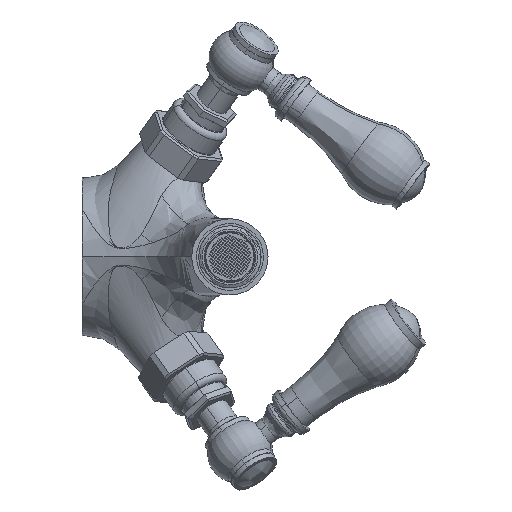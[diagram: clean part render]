
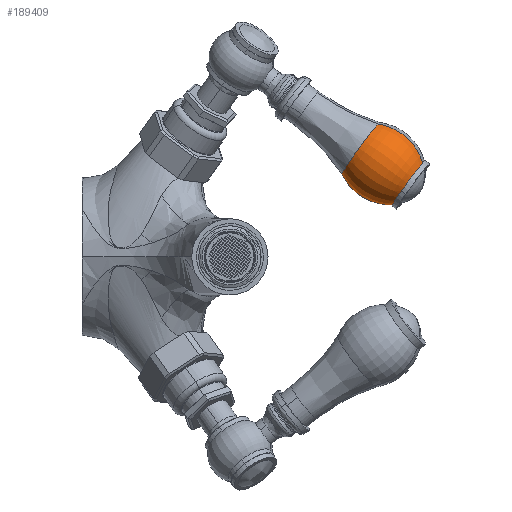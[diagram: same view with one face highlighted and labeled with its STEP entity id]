
A CAD part, left-side view. The second image highlights one B-rep face of the part: STEP entity #189409.
In plain terms, the highlighted toroidal (fillet/blend) face has major radius 5 mm and minor radius 20 mm.
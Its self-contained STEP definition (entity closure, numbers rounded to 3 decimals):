
#2110 = ORIENTED_EDGE ( 'NONE', *, *, #62813, .T. ) ;
#6905 = DIRECTION ( 'NONE',  ( -0.926, 0.263, -0.272 ) ) ;
#20478 = CARTESIAN_POINT ( 'NONE',  ( -36.599, -107.28, 41.905 ) ) ;
#22408 = CIRCLE ( 'NONE', #49944, 10.199 ) ;
#28832 = AXIS2_PLACEMENT_3D ( 'NONE', #20478, #92446, #6905 ) ;
#32799 = CARTESIAN_POINT ( 'NONE',  ( -39.02, -117.909, 39.851 ) ) ;
#38187 = CARTESIAN_POINT ( 'NONE',  ( -37.147, -115.25, 36.054 ) ) ;
#42229 = CARTESIAN_POINT ( 'NONE',  ( -41.685, -131.138, 36.119 ) ) ;
#43458 = EDGE_CURVE ( 'NONE', #181078, #58126, #62026, .T. ) ;
#45832 = ORIENTED_EDGE ( 'NONE', *, *, #183440, .T. ) ;
#49944 = AXIS2_PLACEMENT_3D ( 'NONE', #182563, #53764, #139220 ) ;
#52982 = CIRCLE ( 'NONE', #141956, 20. ) ;
#53764 = DIRECTION ( 'NONE',  ( -0.055, -0.805, -0.591 ) ) ;
#56410 = DIRECTION ( 'NONE',  ( -0.375, -0.532, 0.76 ) ) ;
#58126 = VERTEX_POINT ( 'NONE', #42229 ) ;
#58944 = EDGE_CURVE ( 'NONE', #58126, #170666, #22408, .T. ) ;
#62026 = CIRCLE ( 'NONE', #86589, 20. ) ;
#62813 = EDGE_CURVE ( 'NONE', #181078, #78639, #111621, .T. ) ;
#66245 = TOROIDAL_SURFACE ( 'NONE', #152526, -5., 20. ) ;
#77006 = DIRECTION ( 'NONE',  ( -0.282, 0., 0.959 ) ) ;
#78639 = VERTEX_POINT ( 'NONE', #118654 ) ;
#86589 = AXIS2_PLACEMENT_3D ( 'NONE', #130909, #189667, #158872 ) ;
#89335 = EDGE_LOOP ( 'NONE', ( #2110, #45832, #156648, #174662 ) ) ;
#91383 = DIRECTION ( 'NONE',  ( -0.926, 0.263, -0.272 ) ) ;
#92446 = DIRECTION ( 'NONE',  ( -0.055, -0.805, -0.591 ) ) ;
#93476 = CARTESIAN_POINT ( 'NONE',  ( -41.236, -113.862, 51.305 ) ) ;
#98644 = FACE_OUTER_BOUND ( 'NONE', #89335, .T. ) ;
#111621 = CIRCLE ( 'NONE', #28832, 12.376 ) ;
#114365 = CARTESIAN_POINT ( 'NONE',  ( -34.044, -120.29, 20.627 ) ) ;
#118654 = CARTESIAN_POINT ( 'NONE',  ( -31.963, -100.698, 32.505 ) ) ;
#130909 = CARTESIAN_POINT ( 'NONE',  ( -35.273, -112.591, 32.256 ) ) ;
#139220 = DIRECTION ( 'NONE',  ( -0.926, 0.263, -0.272 ) ) ;
#141956 = AXIS2_PLACEMENT_3D ( 'NONE', #32799, #91383, #77006 ) ;
#152526 = AXIS2_PLACEMENT_3D ( 'NONE', #38187, #169869, #56410 ) ;
#156648 = ORIENTED_EDGE ( 'NONE', *, *, #58944, .F. ) ;
#158872 = DIRECTION ( 'NONE',  ( 0.282, 0., -0.959 ) ) ;
#169869 = DIRECTION ( 'NONE',  ( -0.055, -0.805, -0.591 ) ) ;
#170666 = VERTEX_POINT ( 'NONE', #114365 ) ;
#174662 = ORIENTED_EDGE ( 'NONE', *, *, #43458, .F. ) ;
#181078 = VERTEX_POINT ( 'NONE', #93476 ) ;
#182563 = CARTESIAN_POINT ( 'NONE',  ( -37.865, -125.714, 28.373 ) ) ;
#183440 = EDGE_CURVE ( 'NONE', #78639, #170666, #52982, .T. ) ;
#189409 = ADVANCED_FACE ( 'NONE', ( #98644 ), #66245, .T. ) ;
#189667 = DIRECTION ( 'NONE',  ( 0.926, -0.263, 0.272 ) ) ;
